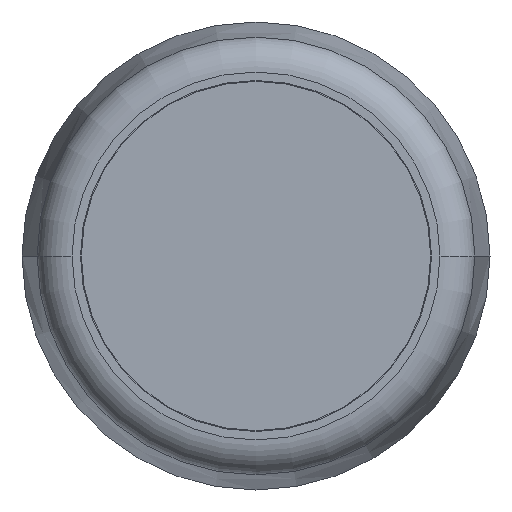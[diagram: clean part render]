
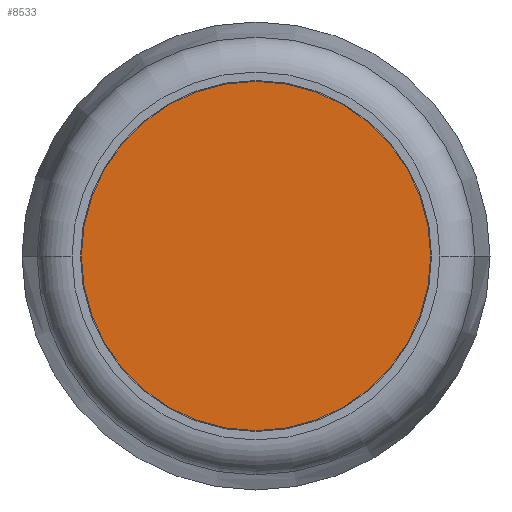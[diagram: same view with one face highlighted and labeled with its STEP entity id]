
A CAD part, front view. The second image highlights one B-rep face of the part: STEP entity #8533.
In plain terms, the highlighted planar face has unit normal (0, -1, 0).
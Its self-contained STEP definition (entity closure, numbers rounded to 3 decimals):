
#496 = CARTESIAN_POINT ( 'NONE',  ( -3.068, 0.2, -10. ) ) ;
#1630 = DIRECTION ( 'NONE',  ( 0., 1., 0. ) ) ;
#1698 = DIRECTION ( 'NONE',  ( 0., 1., 0. ) ) ;
#2308 = ORIENTED_EDGE ( 'NONE', *, *, #2550, .F. ) ;
#2550 = EDGE_CURVE ( 'NONE', #7788, #3376, #11327, .T. ) ;
#3376 = VERTEX_POINT ( 'NONE', #11754 ) ;
#4681 = CARTESIAN_POINT ( 'NONE',  ( 0., 0.2, -3. ) ) ;
#6381 = ORIENTED_EDGE ( 'NONE', *, *, #7022, .F. ) ;
#6748 = EDGE_LOOP ( 'NONE', ( #6381, #2308 ) ) ;
#6965 = DIRECTION ( 'NONE',  ( 0., 1., 0. ) ) ;
#7022 = EDGE_CURVE ( 'NONE', #3376, #7788, #7049, .T. ) ;
#7049 = CIRCLE ( 'NONE', #9036, 3. ) ;
#7415 = DIRECTION ( 'NONE',  ( 0., 0., 1. ) ) ;
#7745 = AXIS2_PLACEMENT_3D ( 'NONE', #10084, #1698, #7415 ) ;
#7788 = VERTEX_POINT ( 'NONE', #4681 ) ;
#8272 = DIRECTION ( 'NONE',  ( 0., 0., 1. ) ) ;
#8533 = ADVANCED_FACE ( 'NONE', ( #10818 ), #11870, .F. ) ;
#8929 = AXIS2_PLACEMENT_3D ( 'NONE', #496, #6965, #11003 ) ;
#9036 = AXIS2_PLACEMENT_3D ( 'NONE', #9082, #1630, #8272 ) ;
#9082 = CARTESIAN_POINT ( 'NONE',  ( 0., 0.2, 0. ) ) ;
#10084 = CARTESIAN_POINT ( 'NONE',  ( 0., 0.2, 0. ) ) ;
#10818 = FACE_OUTER_BOUND ( 'NONE', #6748, .T. ) ;
#11003 = DIRECTION ( 'NONE',  ( 0., 0., 1. ) ) ;
#11327 = CIRCLE ( 'NONE', #7745, 3. ) ;
#11754 = CARTESIAN_POINT ( 'NONE',  ( 0., 0.2, 3. ) ) ;
#11870 = PLANE ( 'NONE',  #8929 ) ;
